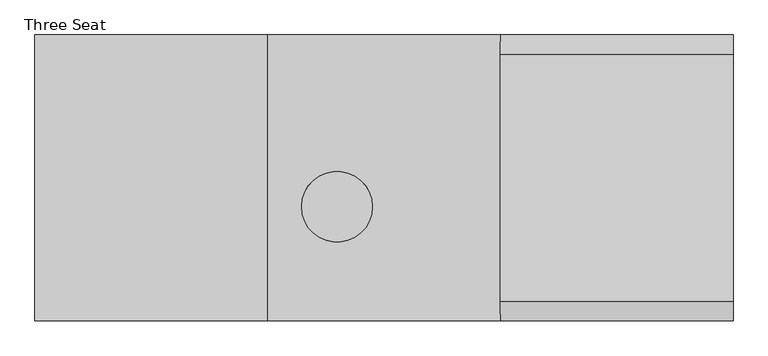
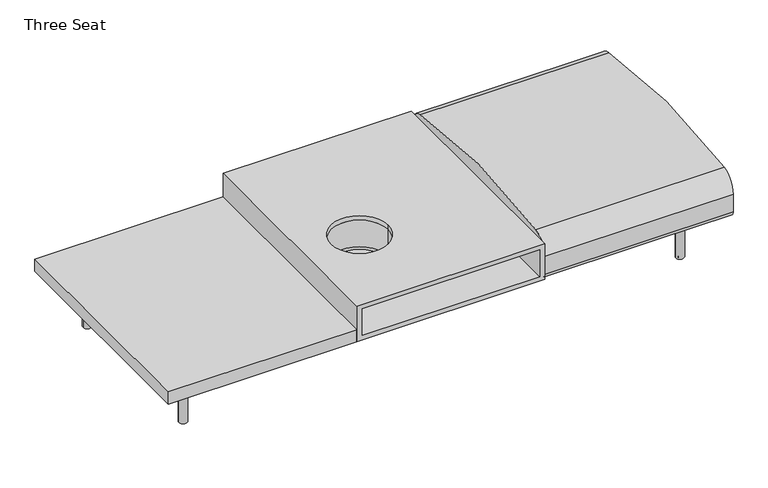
"""IFC4 building model written with IfcOpenShell, lengths in millimetres: furniture geometry, Coalesse_AM_Seating_LoungeChair_Sistema_LegBase_ThreeSeat : Three Seat."""

from ifc_helpers import new_model, si_unit, point, frame, frame_2d, origin, origin_with_axes, place, context, project, spatial, polyline, circle_curve, trimmed, segment, composite_curve, outline, extrude, source, transform, mapped, element, save
from ifc_brep_helpers import plane_surface, revolved_surface, advanced_brep


def three_seat_8b8f405d(model_context):
    return source(origin(), model_context, "Body", "SolidModel", [
        extrude(outline(polyline([(374.4965227, 459.4795619), (374.4965227, -461.2704381), (-374.8034773, -461.2704381), (-374.8034773, 459.4795619), (374.4965227, 459.4795619)])), frame((0.0, 0.0, 204.47), z_axis=(0.0, 0.0, 1.0), x_axis=(1.0, 0.0, 0.0)), (0.0, 0.0, 1.0), 51.0294654),
        advanced_brep(
        [(1102.9069667, -461.2704381, 336.5211742), (396.2928302, -461.2704381, 336.5211742), (396.2928302, 459.4795619, 336.5211742), (1102.9069667, 459.4795619, 336.5211742), (711.5952223, -93.7879891, 336.5211742), (484.2332034, -93.7879891, 336.5211742), (396.2928302, -461.2704381, 223.173587), (396.2928302, 459.4795619, 223.173587), (1123.7965227, -461.2704381, 354.7774), (374.4965227, -461.2704381, 354.7774), (374.4965227, -461.2704381, 204.47), (1123.7965227, -461.2704381, 204.47), (1102.9069667, -461.2704381, 223.173587), (1123.7965227, 459.4795619, 354.7774), (1123.7965227, 459.4795619, 204.47), (374.4965227, 459.4795619, 204.47), (374.4965227, 459.4795619, 354.7774), (1102.9069667, 459.4795619, 223.173587), (484.2332034, -93.7879891, 354.7774), (711.5952223, -93.7879891, 354.7774), (484.2332034, -93.7879891, 223.173587), (711.5952223, -93.7879891, 223.173587), (484.2332034, -93.7879891, 212.4123377), (711.5952223, -93.7879891, 212.4123377)],
        [
            (0, 1),
            (1, 2),
            (2, 3),
            (3, 0),
            (4, 5, circle_curve(frame((597.9142128, -93.7879891, 336.5211742), z_axis=(0.0, 0.0, 1.0), x_axis=(1.0, 0.0, 0.0)), 113.6810095)),
            (5, 4, circle_curve(frame((597.9142128, -93.7879891, 336.5211742), z_axis=(0.0, 0.0, 1.0), x_axis=(1.0, 0.0, 0.0)), 113.6810095)),
            (1, 6),
            (6, 7),
            (7, 2),
            (8, 9),
            (9, 10),
            (10, 11),
            (11, 8),
            (0, 12),
            (12, 6),
            (13, 14),
            (14, 15),
            (15, 16),
            (16, 13),
            (7, 17),
            (17, 3),
            (8, 13),
            (16, 9),
            (18, 19, circle_curve(frame((597.9142128, -93.7879891, 354.7774), z_axis=(0.0, 0.0, -1.0), x_axis=(1.0, 0.0, 0.0)), 113.6810095)),
            (19, 18, circle_curve(frame((597.9142128, -93.7879891, 354.7774), z_axis=(0.0, 0.0, -1.0), x_axis=(1.0, 0.0, 0.0)), 113.6810095)),
            (15, 10),
            (14, 11),
            (17, 12),
            (20, 21, circle_curve(frame((597.9142128, -93.7879891, 223.173587), z_axis=(0.0, 0.0, -1.0), x_axis=(1.0, 0.0, 0.0)), 113.6810095)),
            (21, 20, circle_curve(frame((597.9142128, -93.7879891, 223.173587), z_axis=(0.0, 0.0, -1.0), x_axis=(1.0, 0.0, 0.0)), 113.6810095)),
            (22, 23, circle_curve(frame((597.9142128, -93.7879891, 212.4123377), z_axis=(0.0, 0.0, 1.0), x_axis=(1.0, 0.0, 0.0)), 113.6810095)),
            (23, 22, circle_curve(frame((597.9142128, -93.7879891, 212.4123377), z_axis=(0.0, 0.0, 1.0), x_axis=(1.0, 0.0, 0.0)), 113.6810095)),
            (23, 21),
            (20, 22),
            (18, 5),
            (4, 19),
        ],
        [
            plane_surface(frame((396.2928302, -461.2704381, 336.5211742), z_axis=(0.0, 0.0, -1.0), x_axis=(0.0, 1.0, 0.0))),
            plane_surface(frame((396.2928302, -461.2704381, 223.173587), z_axis=(1.0, 0.0, 0.0), x_axis=(0.0, 1.0, 0.0))),
            plane_surface(frame((378.0346424, -461.2704381, 354.7774), z_axis=(0.0, -1.0, 0.0), x_axis=(-1.0, 0.0, 0.0))),
            plane_surface(frame((378.0346424, 459.4795619, 354.7774), z_axis=(0.0, 1.0, 0.0), x_axis=(1.0, 0.0, 0.0))),
            plane_surface(frame((1123.7965227, -461.2704381, 354.7774), z_axis=(0.0, 0.0, 1.0), x_axis=(0.0, 1.0, 0.0))),
            plane_surface(frame((374.4965227, -461.2704381, 354.7774), z_axis=(-1.0, 0.0, 0.0), x_axis=(0.0, 1.0, 0.0))),
            plane_surface(frame((374.4965227, -461.2704381, 204.47), z_axis=(0.0, 0.0, -1.0), x_axis=(0.0, 1.0, 0.0))),
            plane_surface(frame((1123.7965227, -461.2704381, 204.47), z_axis=(1.0, 0.0, 0.0), x_axis=(0.0, 1.0, 0.0))),
            plane_surface(frame((1102.9069667, -461.2704381, 336.5211742), z_axis=(-1.0, 0.0, 0.0), x_axis=(0.0, 1.0, 0.0))),
            plane_surface(frame((1102.9069667, -461.2704381, 223.173587), z_axis=(0.0, 0.0, 1.0), x_axis=(0.0, 1.0, 0.0))),
            plane_surface(frame((711.5952223, -93.7879891, 212.4123377), z_axis=(0.0, 0.0, 1.0), x_axis=(0.0, -1.0, 0.0))),
            revolved_surface(polyline([(711.5952222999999, -93.7879891, 212.41233770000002), (711.5952222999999, -93.7879891, 223.173587)]), (597.9142128, -93.7879891, 496.2226929), (0.0, 0.0, -1.0)),
            revolved_surface(polyline([(711.5952222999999, -93.7879891, 336.5211742), (711.5952222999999, -93.7879891, 354.7774)]), (597.9142128, -93.7879891, 496.2226929), (0.0, 0.0, -1.0)),
        ],
        [
            (0, [[1, 2, 3, 4], [5, 6]]),
            (1, [[7, 8, 9, -2]]),
            (2, [[10, 11, 12, 13], [14, 15, -7, -1]]),
            (3, [[16, 17, 18, 19], [-3, -9, 20, 21]]),
            (4, [[-10, 22, -19, 23], [24, 25]]),
            (5, [[-11, -23, -18, 26]]),
            (6, [[-12, -26, -17, 27]]),
            (7, [[-13, -27, -16, -22]]),
            (8, [[-14, -4, -21, 28]]),
            (9, [[-15, -28, -20, -8], [29, 30]]),
            (10, [[31, 32]]),
            (11, [[-32, 33, -29, 34]]),
            (12, [[35, -5, 36, -24]]),
            (11, [[-31, -34, -30, -33]]),
            (12, [[-35, -25, -36, -6]]),
        ],
    ),
        extrude(outline(composite_curve([segment(trimmed(circle_curve(frame_2d((597.9142128, -93.7879891)), 127.924967), [point((469.9892458, -93.7879891))], [point((725.8391799, -93.7879891))], False, "CARTESIAN"), True, "CONTINUOUS"), segment(trimmed(circle_curve(frame_2d((597.9142128, -93.7879891)), 127.924967), [point((725.8391799, -93.7879891))], [point((469.9892458, -93.7879891))], False, "CARTESIAN"), True, "CONTINUOUS")], self_intersect=False), holes=[composite_curve([segment(trimmed(circle_curve(frame_2d((597.9142128, -93.7879891)), 113.6810095), [point((484.2332034, -93.7879891))], [point((711.5952223, -93.7879891))], True, "CARTESIAN"), True, "CONTINUOUS"), segment(trimmed(circle_curve(frame_2d((597.9142128, -93.7879891)), 113.6810095), [point((711.5952223, -93.7879891))], [point((484.2332034, -93.7879891))], True, "CARTESIAN"), True, "CONTINUOUS")], self_intersect=False)]), frame((0.0, 0.0, 212.4123377), z_axis=(0.0, 0.0, 1.0), x_axis=(1.0, 0.0, 0.0)), (0.0, 0.0, 1.0), 124.1087275),
        extrude(outline(composite_curve([segment(trimmed(circle_curve(frame_2d((-438.9184381, 226.822)), 22.352), [point((-438.9184381, 204.47))], [point((-461.2704381, 226.822))], False, "CARTESIAN"), True, "CONTINUOUS"), segment(polyline([(-461.2704381, 226.822), (-461.2704381, 301.4421993)]), True, "CONTINUOUS"), segment(trimmed(circle_curve(frame_2d((-385.0704381, 301.4421993)), 76.2), [point((-461.2704381, 301.4421993))], [point((-398.9279534, 376.3715612))], False, "CARTESIAN"), True, "CONTINUOUS"), segment(trimmed(circle_curve(frame_2d((-0.3717831, -1778.6727457)), 2191.5891461), [point((-398.9279534, 376.3715612))], [point((397.0993513, 376.5719464))], False, "CARTESIAN"), True, "CONTINUOUS"), segment(trimmed(circle_curve(frame_2d((383.2795619, 301.6356173)), 76.2), [point((397.0993513, 376.5719464))], [point((459.4795619, 301.6356173))], False, "CARTESIAN"), True, "CONTINUOUS"), segment(polyline([(459.4795619, 301.6356173), (459.4795619, 226.7871991)]), True, "CONTINUOUS"), segment(trimmed(circle_curve(frame_2d((437.1623628, 226.7871991)), 22.3171991), [point((459.4795619, 226.7871991))], [point((437.1623628, 204.47))], False, "CARTESIAN"), True, "CONTINUOUS"), segment(polyline([(437.1623628, 204.47), (-438.9184381, 204.47)]), True, "CONTINUOUS")], self_intersect=False)), frame((1123.7965227, 0.0, 0.0), z_axis=(1.0, 0.0, 0.0), x_axis=(0.0, 1.0, 0.0)), (0.0, 0.0, 1.0), 749.3),
        extrude(outline(composite_curve([segment(trimmed(circle_curve(frame_2d((1738.4765227, 335.9943389)), 6.096), [point((1744.5725227, 335.9943389))], [point((1732.3805227, 335.9943389))], False, "CARTESIAN"), True, "CONTINUOUS"), segment(trimmed(circle_curve(frame_2d((1738.4765227, 335.9943389)), 6.096), [point((1732.3805227, 335.9943389))], [point((1744.5725227, 335.9943389))], False, "CARTESIAN"), True, "CONTINUOUS")], self_intersect=False)), origin_with_axes(), (0.0, 0.0, 1.0), 4.3662291),
        extrude(outline(composite_curve([segment(trimmed(circle_curve(frame_2d((1738.4765227, -327.2630889)), 6.096), [point((1744.5725227, -327.2630889))], [point((1732.3805227, -327.2630889))], False, "CARTESIAN"), True, "CONTINUOUS"), segment(trimmed(circle_curve(frame_2d((1738.4765227, -327.2630889)), 6.096), [point((1732.3805227, -327.2630889))], [point((1744.5725227, -327.2630889))], False, "CARTESIAN"), True, "CONTINUOUS")], self_intersect=False)), origin_with_axes(), (0.0, 0.0, 1.0), 4.3662291),
        extrude(outline(composite_curve([segment(polyline([(157.0399209, 1751.056375), (201.7356243, 1751.056375)]), True, "CONTINUOUS"), segment(trimmed(circle_curve(frame_2d((201.7356243, 1748.008375)), 3.048), [point((201.7356243, 1751.056375))], [point((204.7836243, 1748.008375))], False, "CARTESIAN"), True, "CONTINUOUS"), segment(polyline([(204.7836243, 1748.008375), (204.7836243, 1728.666199)]), True, "CONTINUOUS"), segment(trimmed(circle_curve(frame_2d((201.7356243, 1728.666199)), 3.048), [point((204.7836243, 1728.666199))], [point((201.7356243, 1725.618199))], False, "CARTESIAN"), True, "CONTINUOUS"), segment(polyline([(201.7356243, 1725.618199), (157.1249936, 1725.618199)]), True, "CONTINUOUS"), segment(trimmed(circle_curve(frame_2d((157.1249936, 1728.7512718)), 3.1330728), [point((157.1249936, 1725.618199))], [point((153.9919209, 1728.7512718))], False, "CARTESIAN"), True, "CONTINUOUS"), segment(polyline([(153.9919209, 1728.7512718), (153.9919209, 1748.008375)]), True, "CONTINUOUS"), segment(trimmed(circle_curve(frame_2d((157.0399209, 1748.008375)), 3.048), [point((153.9919209, 1748.008375))], [point((157.0399209, 1751.056375))], False, "CARTESIAN"), True, "CONTINUOUS")], self_intersect=False)), frame((0.0, 222.3519802, 0.0), z_axis=(0.0, 1.0, 0.0), x_axis=(0.0, 0.0, 1.0)), (0.0, 0.0, 1.0), 92.6273161),
        extrude(outline(composite_curve([segment(polyline([(157.0399209, 1751.056375), (201.7356243, 1751.056375)]), True, "CONTINUOUS"), segment(trimmed(circle_curve(frame_2d((201.7356243, 1748.008375)), 3.048), [point((201.7356243, 1751.056375))], [point((204.7836243, 1748.008375))], False, "CARTESIAN"), True, "CONTINUOUS"), segment(polyline([(204.7836243, 1748.008375), (204.7836243, 1728.666199)]), True, "CONTINUOUS"), segment(trimmed(circle_curve(frame_2d((201.7356243, 1728.666199)), 3.048), [point((204.7836243, 1728.666199))], [point((201.7356243, 1725.618199))], False, "CARTESIAN"), True, "CONTINUOUS"), segment(polyline([(201.7356243, 1725.618199), (157.1249936, 1725.618199)]), True, "CONTINUOUS"), segment(trimmed(circle_curve(frame_2d((157.1249936, 1728.7512718)), 3.1330728), [point((157.1249936, 1725.618199))], [point((153.9919209, 1728.7512718))], False, "CARTESIAN"), True, "CONTINUOUS"), segment(polyline([(153.9919209, 1728.7512718), (153.9919209, 1748.008375)]), True, "CONTINUOUS"), segment(trimmed(circle_curve(frame_2d((157.0399209, 1748.008375)), 3.048), [point((153.9919209, 1748.008375))], [point((157.0399209, 1751.056375))], False, "CARTESIAN"), True, "CONTINUOUS")], self_intersect=False)), frame((0.0, -314.9792963, 0.0), z_axis=(0.0, 1.0, 0.0), x_axis=(0.0, 0.0, 1.0)), (0.0, 0.0, 1.0), 92.6273161),
        extrude(outline(composite_curve([segment(trimmed(circle_curve(frame_2d((176.3356606, 1715.8259944)), 3.048), [point((179.3836606, 1715.8259944))], [point((176.3356606, 1712.7779944))], False, "CARTESIAN"), True, "CONTINUOUS"), segment(polyline([(176.3356606, 1712.7779944), (157.0399209, 1712.7779944)]), True, "CONTINUOUS"), segment(trimmed(circle_curve(frame_2d((157.0399209, 1715.8259944)), 3.048), [point((157.0399209, 1712.7779944))], [point((153.9919209, 1715.8259944))], False, "CARTESIAN"), True, "CONTINUOUS"), segment(polyline([(153.9919209, 1715.8259944), (153.9919209, 1760.5135501)]), True, "CONTINUOUS"), segment(trimmed(circle_curve(frame_2d((157.056462, 1760.5135501)), 3.0645412), [point((153.9919209, 1760.5135501))], [point((157.056462, 1763.5780913))], False, "CARTESIAN"), True, "CONTINUOUS"), segment(polyline([(157.056462, 1763.5780913), (176.3356606, 1763.5780913)]), True, "CONTINUOUS"), segment(trimmed(circle_curve(frame_2d((176.3356606, 1760.5300913)), 3.048), [point((176.3356606, 1763.5780913))], [point((179.3836606, 1760.5300913))], False, "CARTESIAN"), True, "CONTINUOUS"), segment(polyline([(179.3836606, 1760.5300913), (179.3836606, 1715.8259944)]), True, "CONTINUOUS")], self_intersect=False)), frame((0.0, -222.3519802, 0.0), z_axis=(0.0, 1.0, 0.0), x_axis=(0.0, 0.0, 1.0)), (0.0, 0.0, 1.0), 444.7039604),
        extrude(outline(composite_curve([segment(trimmed(circle_curve(frame_2d((1738.4765227, 332.3095741)), 16.51), [point((1754.9865227, 332.3095741))], [point((1721.9665227, 332.3095741))], False, "CARTESIAN"), True, "CONTINUOUS"), segment(trimmed(circle_curve(frame_2d((1738.4765227, 332.3095741)), 16.51), [point((1721.9665227, 332.3095741))], [point((1754.9865227, 332.3095741))], False, "CARTESIAN"), True, "CONTINUOUS")], self_intersect=False)), frame((0.0, 0.0, 4.3662291), z_axis=(0.0, 0.0, 1.0), x_axis=(1.0, 0.0, 0.0)), (0.0, 0.0, 1.0), 200.1037709),
        extrude(outline(composite_curve([segment(trimmed(circle_curve(frame_2d((1738.0796477, -327.5470741)), 16.51), [point((1754.5896477, -327.5470741))], [point((1721.5696477, -327.5470741))], False, "CARTESIAN"), True, "CONTINUOUS"), segment(trimmed(circle_curve(frame_2d((1738.0796477, -327.5470741)), 16.51), [point((1721.5696477, -327.5470741))], [point((1754.5896477, -327.5470741))], False, "CARTESIAN"), True, "CONTINUOUS")], self_intersect=False)), frame((0.0, 0.0, 4.3662291), z_axis=(0.0, 0.0, 1.0), x_axis=(1.0, 0.0, 0.0)), (0.0, 0.0, 1.0), 200.1037709),
        extrude(outline(composite_curve([segment(trimmed(circle_curve(frame_2d((-240.1834773, 335.9943389)), 6.096), [point((-246.2794773, 335.9943389))], [point((-234.0874773, 335.9943389))], False, "CARTESIAN"), True, "CONTINUOUS"), segment(trimmed(circle_curve(frame_2d((-240.1834773, 335.9943389)), 6.096), [point((-234.0874773, 335.9943389))], [point((-246.2794773, 335.9943389))], False, "CARTESIAN"), True, "CONTINUOUS")], self_intersect=False)), origin_with_axes(), (0.0, 0.0, 1.0), 4.3662291),
        extrude(outline(composite_curve([segment(trimmed(circle_curve(frame_2d((-240.1834773, -327.2630889)), 6.096), [point((-246.2794773, -327.2630889))], [point((-234.0874773, -327.2630889))], False, "CARTESIAN"), True, "CONTINUOUS"), segment(trimmed(circle_curve(frame_2d((-240.1834773, -327.2630889)), 6.096), [point((-234.0874773, -327.2630889))], [point((-246.2794773, -327.2630889))], False, "CARTESIAN"), True, "CONTINUOUS")], self_intersect=False)), origin_with_axes(), (0.0, 0.0, 1.0), 4.3662291),
        extrude(outline(composite_curve([segment(trimmed(circle_curve(frame_2d((157.0399209, -249.7153296)), 3.048), [point((157.0399209, -252.7633296))], [point((153.9919209, -249.7153296))], False, "CARTESIAN"), True, "CONTINUOUS"), segment(polyline([(153.9919209, -249.7153296), (153.9919209, -230.4582264)]), True, "CONTINUOUS"), segment(trimmed(circle_curve(frame_2d((157.1249936, -230.4582264)), 3.1330728), [point((153.9919209, -230.4582264))], [point((157.1249936, -227.3251537))], False, "CARTESIAN"), True, "CONTINUOUS"), segment(polyline([(157.1249936, -227.3251537), (201.7356243, -227.3251537)]), True, "CONTINUOUS"), segment(trimmed(circle_curve(frame_2d((201.7356243, -230.3731537)), 3.048), [point((201.7356243, -227.3251537))], [point((204.7836243, -230.3731537))], False, "CARTESIAN"), True, "CONTINUOUS"), segment(polyline([(204.7836243, -230.3731537), (204.7836243, -249.7153296)]), True, "CONTINUOUS"), segment(trimmed(circle_curve(frame_2d((201.7356243, -249.7153296)), 3.048), [point((204.7836243, -249.7153296))], [point((201.7356243, -252.7633296))], False, "CARTESIAN"), True, "CONTINUOUS"), segment(polyline([(201.7356243, -252.7633296), (157.0399209, -252.7633296)]), True, "CONTINUOUS")], self_intersect=False)), frame((0.0, 222.3519802, 0.0), z_axis=(0.0, 1.0, 0.0), x_axis=(0.0, 0.0, 1.0)), (0.0, 0.0, 1.0), 92.6273161),
        extrude(outline(composite_curve([segment(trimmed(circle_curve(frame_2d((157.0399209, -249.7153296)), 3.048), [point((157.0399209, -252.7633296))], [point((153.9919209, -249.7153296))], False, "CARTESIAN"), True, "CONTINUOUS"), segment(polyline([(153.9919209, -249.7153296), (153.9919209, -230.4582264)]), True, "CONTINUOUS"), segment(trimmed(circle_curve(frame_2d((157.1249936, -230.4582264)), 3.1330728), [point((153.9919209, -230.4582264))], [point((157.1249936, -227.3251537))], False, "CARTESIAN"), True, "CONTINUOUS"), segment(polyline([(157.1249936, -227.3251537), (201.7356243, -227.3251537)]), True, "CONTINUOUS"), segment(trimmed(circle_curve(frame_2d((201.7356243, -230.3731537)), 3.048), [point((201.7356243, -227.3251537))], [point((204.7836243, -230.3731537))], False, "CARTESIAN"), True, "CONTINUOUS"), segment(polyline([(204.7836243, -230.3731537), (204.7836243, -249.7153296)]), True, "CONTINUOUS"), segment(trimmed(circle_curve(frame_2d((201.7356243, -249.7153296)), 3.048), [point((204.7836243, -249.7153296))], [point((201.7356243, -252.7633296))], False, "CARTESIAN"), True, "CONTINUOUS"), segment(polyline([(201.7356243, -252.7633296), (157.0399209, -252.7633296)]), True, "CONTINUOUS")], self_intersect=False)), frame((0.0, -314.9792963, 0.0), z_axis=(0.0, 1.0, 0.0), x_axis=(0.0, 0.0, 1.0)), (0.0, 0.0, 1.0), 92.6273161),
        extrude(outline(composite_curve([segment(polyline([(179.3836606, -217.532949), (179.3836606, -262.2370459)]), True, "CONTINUOUS"), segment(trimmed(circle_curve(frame_2d((176.3356606, -262.2370459)), 3.048), [point((179.3836606, -262.2370459))], [point((176.3356606, -265.2850459))], False, "CARTESIAN"), True, "CONTINUOUS"), segment(polyline([(176.3356606, -265.2850459), (157.056462, -265.2850459)]), True, "CONTINUOUS"), segment(trimmed(circle_curve(frame_2d((157.056462, -262.2205047)), 3.0645412), [point((157.056462, -265.2850459))], [point((153.9919209, -262.2205047))], False, "CARTESIAN"), True, "CONTINUOUS"), segment(polyline([(153.9919209, -262.2205047), (153.9919209, -217.532949)]), True, "CONTINUOUS"), segment(trimmed(circle_curve(frame_2d((157.0399209, -217.532949)), 3.048), [point((153.9919209, -217.532949))], [point((157.0399209, -214.484949))], False, "CARTESIAN"), True, "CONTINUOUS"), segment(polyline([(157.0399209, -214.484949), (176.3356606, -214.484949)]), True, "CONTINUOUS"), segment(trimmed(circle_curve(frame_2d((176.3356606, -217.532949)), 3.048), [point((176.3356606, -214.484949))], [point((179.3836606, -217.532949))], False, "CARTESIAN"), True, "CONTINUOUS")], self_intersect=False)), frame((0.0, -222.3519802, 0.0), z_axis=(0.0, 1.0, 0.0), x_axis=(0.0, 0.0, 1.0)), (0.0, 0.0, 1.0), 444.7039604),
        extrude(outline(composite_curve([segment(trimmed(circle_curve(frame_2d((-240.1834773, 332.3095741)), 16.51), [point((-256.6934773, 332.3095741))], [point((-223.6734773, 332.3095741))], False, "CARTESIAN"), True, "CONTINUOUS"), segment(trimmed(circle_curve(frame_2d((-240.1834773, 332.3095741)), 16.51), [point((-223.6734773, 332.3095741))], [point((-256.6934773, 332.3095741))], False, "CARTESIAN"), True, "CONTINUOUS")], self_intersect=False)), frame((0.0, 0.0, 4.3662291), z_axis=(0.0, 0.0, 1.0), x_axis=(1.0, 0.0, 0.0)), (0.0, 0.0, 1.0), 200.1037709),
        extrude(outline(composite_curve([segment(trimmed(circle_curve(frame_2d((-239.7866023, -327.5470741)), 16.51), [point((-256.2966023, -327.5470741))], [point((-223.2766023, -327.5470741))], False, "CARTESIAN"), True, "CONTINUOUS"), segment(trimmed(circle_curve(frame_2d((-239.7866023, -327.5470741)), 16.51), [point((-223.2766023, -327.5470741))], [point((-256.2966023, -327.5470741))], False, "CARTESIAN"), True, "CONTINUOUS")], self_intersect=False)), frame((0.0, 0.0, 4.3662291), z_axis=(0.0, 0.0, 1.0), x_axis=(1.0, 0.0, 0.0)), (0.0, 0.0, 1.0), 200.1037709),
    ])


if __name__ == "__main__":
    model = new_model("IFC4")
    model_context = context("Model", 3, world=origin())
    ifc_project = project(units=[si_unit("LENGTHUNIT", "METRE", prefix="MILLI")], contexts=[model_context])
    site = spatial("IfcSite", under=ifc_project)
    building = spatial("IfcBuilding", under=site)
    placement = place(None, origin())
    three_seat_shape = three_seat_8b8f405d(model_context)
    element("IfcFurniture", 1, ObjectType="Coalesse_AM_Seating_LoungeChair_Sistema_LegBase_ThreeSeat : Three Seat", at=placement, inside=building, context=model_context, shape_type="MappedRepresentation", body=[
        mapped(three_seat_shape, transform((0.0, 0.0, 0.0), x_axis=(1.0, 0.0, 0.0), y_axis=(0.0, 1.0, 0.0), z_axis=(0.0, 0.0, 1.0))),
    ])
    save(model, "model.ifc")
